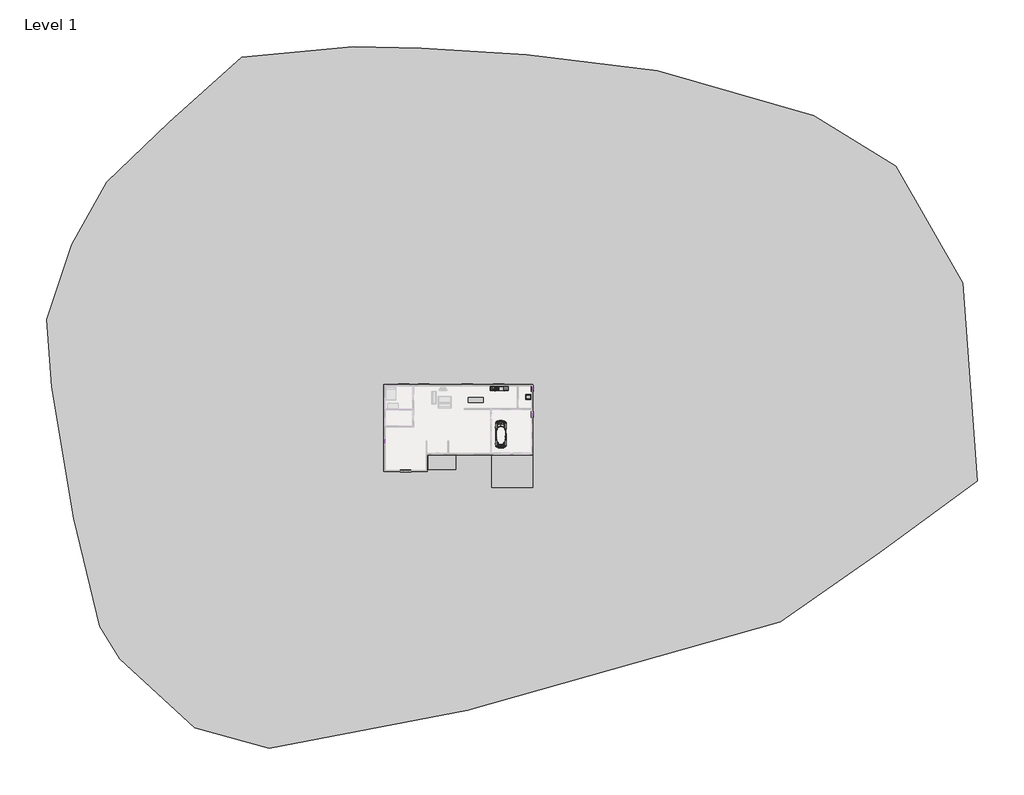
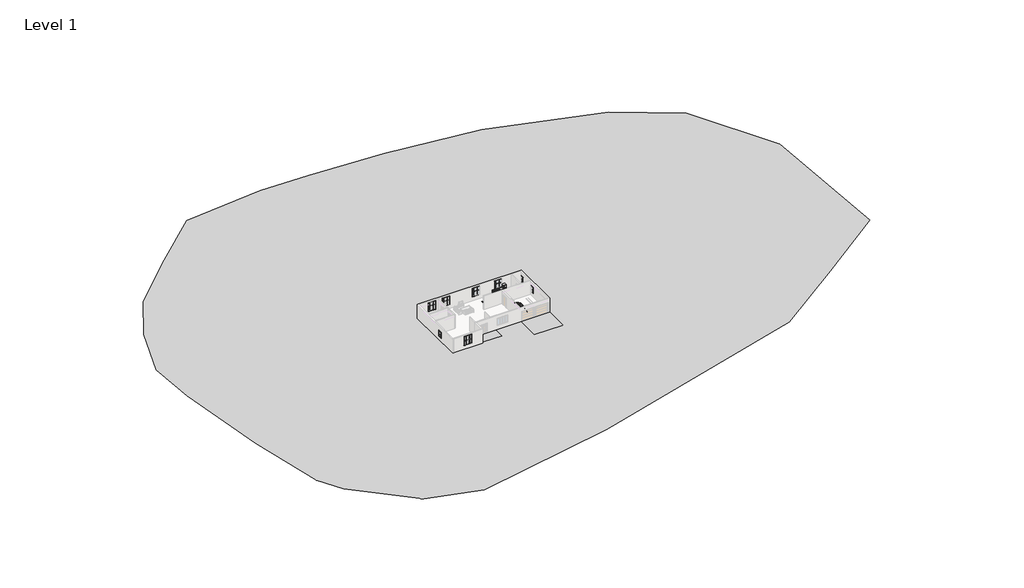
# One storey, part 2 of 2: 41 proxies, 2 furniture elements, 1 flow terminal.
"""IFC4 building model written with IfcOpenShell, lengths in millimetres."""

from ifc_helpers import new_model, si_unit, origin, place, context, project, spatial, triangles, transform, mapped, element, save
from components import proxy_a6faaae8, proxy_45b28599, kitchenette_medium_kitchenette_medium_7c2ce49e, muntin_pattern_2x1_muntin_pattern_2x2_2_bff912c5, muntin_pattern_2x1_muntin_pattern_2x2_2_c2194282, muntin_pattern_2x1_muntin_pattern_2x2_2_b8ba09c9, rpc_beetle_rpc_beetle_e6dad58a, proxy_c523a7b7, trim_window_exterior_flat1_with_sill_2_e04b3088, trim_window_exterior_flat1_with_sill_2_6cd3ad68, trim_window_interior_flat1_picture_frame_2_2a7685fe, trim_window_interior_flat1_picture_frame_2_840a62db, proxy_e25b1b2c, flow_terminal_871c2e40, furniture_b11095bc, furniture_92191dda

model = new_model("IFC4")

# Units and contexts
model_context = context("Model", 3, world=origin())
ifc_project = project(units=[si_unit("LENGTHUNIT", "METRE", prefix="MILLI")], contexts=[model_context])

# Site, building, storey
site = spatial("IfcSite", under=ifc_project)
building = spatial("IfcBuilding", under=site)
storey = spatial("IfcBuildingStorey", under=building, Name="Level 1", Elevation=0.0)

# Proxies
placement = place(None, origin())
element("IfcBuildingElementProxy", 1, Name="Building Element Proxy", at=placement, inside=storey, context=model_context, shape_type="Tessellation", body=[
    triangles([(59597.3715454, -17665.7182159, 0.0), (73730.2251709, -7380.5000839, 0.0), (71580.1285034, 21287.4727295, 0.0), (61904.6865234, 38129.9074768, 0.0), (50079.147876, 45416.3487671, 0.0), (27503.1189148, 51986.0965942, 0.0), (8510.5875, 54255.6417847, 0.0), (-6659.5481598, 55211.2439209, 0.0), (-16454.4398254, 55450.1409668, 0.0), (-32580.1741333, 53897.2915649, 0.0), (-43107.34552, 44439.9758057, 0.0), (-52040.1212036, 35818.8113342, 0.0), (-57129.722168, 26782.167572, 0.0), (-60765.1560791, 15979.743219, 0.0), (-60038.0702271, 6216.0136047, 0.0), (-56818.1132812, -12792.0994171, 0.0), (-53078.8159424, -28372.5193359, 0.0), (-50170.4678833, -33046.6456604, 0.0), (-39368.0435303, -43018.1137573, 0.0), (-28565.6191772, -46030.329895, 0.0), (-1.5153775, -40525.2473145, 0.0), (45224.509314, -27718.8685364, 0.0), (-1668.2012272, -3591.5729256, 0.0), (-1668.2012272, -5725.1726349, 0.0), (-3279.2780342, -5725.1726349, 0.0), (-5630.6010818, -5725.1726349, 0.0), (-5630.6010818, -3591.5729256, 0.0), (-3732.2620125, -3591.5729256, 0.0), (9502.8513519, -3591.5729256, 0.0), (9502.8513519, -8315.9726349, 0.0), (9351.0763138, -8315.9726349, 0.0), (3559.2516426, -8315.9726349, 0.0), (3559.2516426, -3591.5729256, 0.0), (8411.465062, -3591.5729256, 0.0), (-16351.0414856, -21828.3513428, 0.0), (-20827.8356689, -18922.3612793, 0.0), (-22791.3414001, -13188.9240326, 0.0), (-23184.0430115, -7612.5667328, 0.0), (-21220.5349548, -936.6464619, 0.0), (-19649.730835, 4325.5496361, 0.0), (-15408.558316, 11865.4129578, 0.0), (-7397.4537003, 13671.8387421, 0.0), (-4255.8440071, 15713.8850281, 0.0), (-171.7513443, 15870.964975, 0.0), (4540.66325, 15870.964975, 0.0), (13180.0896881, 15321.1834167, 0.0), (19698.9301575, 13514.7576324, 0.0), (24725.5047363, 11080.0108978, 0.0), (27710.0341919, 8174.0214157, 0.0), (29909.1604248, 3461.6070213, 0.0), (31322.8857605, -779.5659336, 0.0), (32108.2866577, -5491.9804733, 0.0), (32265.3677673, -11853.7404144, 0.0), (29909.1604248, -17822.7981628, 0.0), (26689.0104675, -21357.1080139, 0.0), (22997.6195068, -23399.1554626, 0.0), (17264.1822601, -25519.7423035, 0.0), (12944.4691864, -26383.6849182, 0.0), (1411.7785069, -27820.508844, 0.0), (-5512.4879425, -29996.5364868, 0.0), (-11952.7878571, -30389.2357727, 0.0), (-18314.5472168, -30153.615271, 0.0), (-23105.5012939, -29211.1332642, 0.0), (-27425.2143677, -27169.0858154, 0.0), (-29545.8012085, -24577.2579712, 0.0), (-30409.7438232, -19079.4423889, 0.0), (-30488.2855408, -12246.440863, 0.0), (-29624.342926, -5099.2794434, 0.0), (-28838.9397034, 319.9974372, 0.0), (-27582.2954773, 5425.1130432, 0.0), (-24519.2266296, 9509.2056152, 0.0), (-18707.2488281, 14928.4818054, 0.0), (-12895.2698639, 17755.9313141, 0.0), (5954.3877136, 19955.0587097, 0.0), (23233.2400085, 14457.240802, 0.0), (-20042.4324463, 23253.7480591, 0.0), (-6690.5916138, 23960.6095642, 0.0), (2577.1572281, 27966.1627441, 0.0), (16243.1585358, 25688.4947937, 0.0), (24804.0464539, 22782.5070557, 0.0), (31951.2078735, 17755.9313141, 0.0), (36506.541449, 13279.1371307, 0.0), (38941.2881836, 7859.8603592, 0.0), (43339.5406494, -2900.1523384, 0.0), (-28603.3192017, 19876.5169922, 0.0), (-32373.2495544, 10294.6076752, 0.0), (-34101.1347839, 4247.0093719, 0.0), (-37321.2847412, -5334.8999451, 0.0), (-37556.9052429, -9968.7740753, 0.0), (43496.6240845, -11618.11875, 0.0), (33600.5513855, -21906.8907349, 0.0), (22447.8391113, -25676.8234131, 0.0), (9017.4571426, -29368.2143738, 0.0), (-4570.0047729, -30703.3979919, 0.0), (-42269.3222534, 3540.1472855, 0.0), (-43997.2074829, 12807.8961273, 0.0), (-40934.1386353, 21604.4022217, 0.0), (-30331.2044312, 32442.9569275, 0.0), (-10696.143631, 35663.1068848, 0.0), (9174.5370895, 35506.0257751, 0.0), (31008.7235413, 34249.3815491, 0.0), (41925.8176392, 30008.2078674, 0.0), (47345.0961548, 23882.0701721, 0.0), (51743.3486206, 15870.964975, 0.0), (55356.1978638, 7231.5388275, 0.0), (58576.3501465, -4942.1989151, 0.0), (-43107.34552, -39382.6844971, 0.0), (-54636.8557251, -21309.3969727, 0.0), (-57233.5948975, -5728.9753098, 0.0), (-37810.0014221, 47140.5830566, 0.0)], [[17, 66, 108], [17, 108, 16], [65, 17, 18], [65, 107, 64], [19, 107, 18], [64, 107, 19], [107, 65, 18], [66, 17, 65], [109, 16, 89], [16, 109, 15], [16, 108, 89], [109, 89, 88], [67, 66, 37], [68, 89, 67], [95, 109, 88], [88, 89, 68], [67, 38, 68], [67, 89, 66], [108, 66, 89], [68, 69, 88], [36, 66, 65], [20, 63, 64], [63, 20, 62], [36, 64, 63], [20, 64, 19], [61, 94, 60], [61, 62, 20], [63, 62, 35], [61, 35, 62], [35, 60, 59], [94, 61, 21], [61, 20, 21], [35, 61, 60], [39, 38, 26], [38, 67, 37], [26, 38, 37], [38, 39, 68], [35, 26, 37], [35, 36, 63], [27, 39, 26], [27, 28, 42], [26, 35, 59], [37, 36, 35], [66, 36, 37], [39, 27, 40], [65, 64, 36], [39, 69, 68], [14, 15, 96], [96, 15, 95], [14, 96, 13], [88, 87, 95], [95, 15, 109], [87, 86, 95], [70, 86, 87], [97, 86, 85], [95, 86, 96], [69, 87, 88], [96, 86, 97], [12, 98, 11], [97, 12, 13], [98, 110, 11], [85, 98, 97], [110, 10, 11], [10, 110, 98], [98, 9, 10], [98, 12, 97], [13, 96, 97], [70, 87, 69], [70, 40, 71], [70, 69, 39], [71, 40, 41], [71, 85, 86], [72, 41, 73], [41, 40, 27], [73, 42, 43], [41, 42, 73], [27, 42, 41], [41, 72, 71], [42, 44, 43], [71, 72, 85], [99, 98, 76], [85, 72, 76], [98, 99, 9], [76, 98, 85], [77, 99, 76], [77, 73, 43], [99, 8, 9], [100, 8, 99], [78, 99, 77], [77, 76, 73], [72, 73, 76], [77, 43, 44], [71, 86, 70], [39, 40, 70], [59, 60, 94], [26, 59, 25], [59, 21, 93], [31, 32, 58], [25, 59, 32], [31, 58, 30], [93, 58, 59], [32, 59, 58], [21, 92, 93], [24, 25, 32], [24, 33, 23], [33, 34, 45], [24, 32, 33], [29, 46, 34], [23, 44, 42], [44, 23, 33], [30, 52, 29], [94, 21, 59], [93, 57, 58], [93, 92, 57], [57, 92, 56], [57, 56, 30], [91, 55, 92], [91, 92, 22], [55, 91, 54], [55, 56, 92], [22, 90, 91], [30, 56, 55], [21, 22, 92], [30, 55, 54], [52, 30, 53], [54, 91, 53], [52, 53, 90], [30, 54, 53], [90, 1, 106], [53, 91, 90], [106, 2, 105], [2, 106, 1], [52, 90, 84], [22, 1, 90], [29, 52, 51], [57, 30, 58], [106, 84, 90], [46, 29, 47], [34, 46, 45], [45, 46, 74], [44, 45, 74], [80, 75, 81], [49, 48, 29], [46, 47, 79], [75, 47, 48], [81, 75, 48], [29, 48, 47], [44, 33, 45], [80, 47, 75], [8, 100, 7], [74, 78, 44], [79, 78, 74], [99, 78, 100], [101, 100, 79], [79, 74, 46], [100, 6, 7], [101, 6, 100], [101, 79, 80], [79, 100, 78], [47, 80, 79], [81, 48, 49], [78, 77, 44], [49, 83, 82], [29, 50, 49], [83, 50, 51], [82, 81, 49], [84, 105, 83], [105, 84, 106], [83, 104, 82], [104, 83, 105], [105, 3, 104], [84, 83, 51], [51, 52, 84], [82, 104, 103], [101, 81, 102], [101, 80, 81], [102, 81, 103], [101, 102, 5], [103, 3, 4], [103, 81, 82], [5, 102, 4], [4, 102, 103], [104, 3, 103], [101, 5, 6], [105, 2, 3], [50, 83, 49], [29, 51, 50], [23, 42, 28]], closed=False),
])
element("IfcBuildingElementProxy", 2, Name="Building Element Proxy", at=placement, inside=storey, context=model_context, shape_type="Tessellation", body=[
    triangles([(-1668.2012272, -3591.5729256, 0.0), (-3732.2620125, -3591.5729256, 0.0), (-5630.6010818, -3591.5729256, 0.0), (-5630.6010818, -5725.1726349, 0.0), (-3279.2780342, -5725.1726349, 0.0), (-1668.2012272, -5725.1726349, 0.0)], [[3, 4, 2], [2, 4, 5], [5, 6, 1], [5, 1, 2]], closed=False),
])
element("IfcBuildingElementProxy", 3, Name="Building Element Proxy", at=placement, inside=storey, context=model_context, shape_type="Tessellation", body=[
    triangles([(9502.8513519, -3591.5729256, 0.0), (8411.465062, -3591.5729256, 0.0), (3559.2516426, -3591.5729256, 0.0), (3559.2516426, -8315.9726349, 0.0), (9351.0763138, -8315.9726349, 0.0), (9502.8513519, -8315.9726349, 0.0)], [[3, 4, 2], [2, 4, 5], [5, 6, 1], [5, 1, 2]], closed=False),
])
proxy_shape = proxy_a6faaae8(model_context)
element("IfcBuildingElementProxy", 4, Name="Cook Top-4 Unit2 : 22\" x 20\"", ObjectType="Cook Top-4 Unit2 : 22\" x 20\"", at=placement, inside=storey, context=model_context, shape_type="MappedRepresentation", body=[
    mapped(proxy_shape, transform((3677.5209758, 6019.5454182, 1.7), x_axis=(-1.0000000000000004, 0.0, 0.0), y_axis=(0.0, -1.0000000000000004, 0.0), z_axis=(0.0, 0.0, 1.0))),
])
proxy_2_shape = proxy_45b28599(model_context)
element("IfcBuildingElementProxy", 5, Name="Dishwasher1 : 24\" x 24\" x 34\"", ObjectType="Dishwasher1 : 24\" x 24\" x 34\"", at=placement, inside=storey, context=model_context, shape_type="MappedRepresentation", body=[
    mapped(proxy_2_shape, transform((4628.7035073, 5759.4458534, 0.0), x_axis=(1.0, 0.0, 0.0), y_axis=(0.0, 1.0, 0.0), z_axis=(0.0, 0.0, 1.0))),
])
kitchenette_medium_kitchenette_medium_shape = kitchenette_medium_kitchenette_medium_7c2ce49e(model_context)
element("IfcBuildingElementProxy", 6, Name="Kitchenette - Medium : Kitchenette - Medium", ObjectType="Kitchenette - Medium : Kitchenette - Medium", at=placement, inside=storey, context=model_context, shape_type="MappedRepresentation", body=[
    mapped(kitchenette_medium_kitchenette_medium_shape, transform((4001.6832709, 6330.6954182, 0.0), x_axis=(1.0, 0.0, 0.0), y_axis=(0.0, 1.0, 0.0), z_axis=(0.0, 0.0, 1.0))),
])
muntin_pattern_2x1_muntin_pattern_2x2_2_shape = muntin_pattern_2x1_muntin_pattern_2x2_2_bff912c5(model_context)
element("IfcBuildingElementProxy", 7, Name="Muntin Pattern_2x1 : Muntin Pattern_2x2 2", ObjectType="Muntin Pattern_2x1 : Muntin Pattern_2x2 2", at=placement, inside=storey, context=model_context, shape_type="MappedRepresentation", body=[
    mapped(muntin_pattern_2x1_muntin_pattern_2x2_2_shape, transform((-8525.886872, -6003.4562489, 984.25), x_axis=(-1.0, 0.0, 0.0), y_axis=(0.0, -1.0, 0.0), z_axis=(0.0, 0.0, 1.0))),
])
element("IfcBuildingElementProxy", 8, Name="Muntin Pattern_2x1 : Muntin Pattern_2x2 2", ObjectType="Muntin Pattern_2x1 : Muntin Pattern_2x2 2", at=placement, inside=storey, context=model_context, shape_type="MappedRepresentation", body=[
    mapped(muntin_pattern_2x1_muntin_pattern_2x2_2_shape, transform((4215.388128, 6575.8937511, 984.25), x_axis=(1.0, 0.0, 0.0), y_axis=(0.0, 1.0, 0.0), z_axis=(0.0, 0.0, 1.0))),
])
element("IfcBuildingElementProxy", 9, Name="Muntin Pattern_2x1 : Muntin Pattern_2x2 2", ObjectType="Muntin Pattern_2x1 : Muntin Pattern_2x2 2", at=placement, inside=storey, context=model_context, shape_type="MappedRepresentation", body=[
    mapped(muntin_pattern_2x1_muntin_pattern_2x2_2_shape, transform((-356.611872, 6575.8937511, 984.25), x_axis=(1.0, 0.0, 0.0), y_axis=(0.0, 1.0, 0.0), z_axis=(0.0, 0.0, 1.0))),
])
element("IfcBuildingElementProxy", 10, Name="Muntin Pattern_2x1 : Muntin Pattern_2x2 2", ObjectType="Muntin Pattern_2x1 : Muntin Pattern_2x2 2", at=placement, inside=storey, context=model_context, shape_type="MappedRepresentation", body=[
    mapped(muntin_pattern_2x1_muntin_pattern_2x2_2_shape, transform((-6644.699372, 6575.8937511, 984.25), x_axis=(1.0, 0.0, 0.0), y_axis=(0.0, 1.0, 0.0), z_axis=(0.0, 0.0, 1.0))),
])
element("IfcBuildingElementProxy", 11, Name="Muntin Pattern_2x1 : Muntin Pattern_2x2 2", ObjectType="Muntin Pattern_2x1 : Muntin Pattern_2x2 2", at=placement, inside=storey, context=model_context, shape_type="MappedRepresentation", body=[
    mapped(muntin_pattern_2x1_muntin_pattern_2x2_2_shape, transform((-9540.299372, 6575.8937511, 984.25), x_axis=(1.0, 0.0, 0.0), y_axis=(0.0, 1.0, 0.0), z_axis=(0.0, 0.0, 1.0))),
])
muntin_pattern_2x1_muntin_pattern_2x2_2_2_shape = muntin_pattern_2x1_muntin_pattern_2x2_2_c2194282(model_context)
element("IfcBuildingElementProxy", 12, Name="Muntin Pattern_2x1 : Muntin Pattern_2x2 2", ObjectType="Muntin Pattern_2x1 : Muntin Pattern_2x2 2", at=placement, inside=storey, context=model_context, shape_type="MappedRepresentation", body=[
    mapped(muntin_pattern_2x1_muntin_pattern_2x2_2_2_shape, transform((-9246.611872, -6003.4562489, 984.25), x_axis=(1.0, 0.0, 0.0), y_axis=(0.0, 1.0, 0.0), z_axis=(0.0, 0.0, 1.0))),
])
element("IfcBuildingElementProxy", 13, Name="Muntin Pattern_2x1 : Muntin Pattern_2x2 2", ObjectType="Muntin Pattern_2x1 : Muntin Pattern_2x2 2", at=placement, inside=storey, context=model_context, shape_type="MappedRepresentation", body=[
    mapped(muntin_pattern_2x1_muntin_pattern_2x2_2_2_shape, transform((4936.113128, 6575.8937511, 984.25), x_axis=(-1.0, 0.0, 0.0), y_axis=(0.0, -1.0, 0.0), z_axis=(0.0, 0.0, 1.0))),
])
element("IfcBuildingElementProxy", 14, Name="Muntin Pattern_2x1 : Muntin Pattern_2x2 2", ObjectType="Muntin Pattern_2x1 : Muntin Pattern_2x2 2", at=placement, inside=storey, context=model_context, shape_type="MappedRepresentation", body=[
    mapped(muntin_pattern_2x1_muntin_pattern_2x2_2_2_shape, transform((364.113128, 6575.8937511, 984.25), x_axis=(-1.0, 0.0, 0.0), y_axis=(0.0, -1.0, 0.0), z_axis=(0.0, 0.0, 1.0))),
])
element("IfcBuildingElementProxy", 15, Name="Muntin Pattern_2x1 : Muntin Pattern_2x2 2", ObjectType="Muntin Pattern_2x1 : Muntin Pattern_2x2 2", at=placement, inside=storey, context=model_context, shape_type="MappedRepresentation", body=[
    mapped(muntin_pattern_2x1_muntin_pattern_2x2_2_2_shape, transform((-5923.974372, 6575.8937511, 984.25), x_axis=(-1.0, 0.0, 0.0), y_axis=(0.0, -1.0, 0.0), z_axis=(0.0, 0.0, 1.0))),
])
element("IfcBuildingElementProxy", 16, Name="Muntin Pattern_2x1 : Muntin Pattern_2x2 2", ObjectType="Muntin Pattern_2x1 : Muntin Pattern_2x2 2", at=placement, inside=storey, context=model_context, shape_type="MappedRepresentation", body=[
    mapped(muntin_pattern_2x1_muntin_pattern_2x2_2_2_shape, transform((-8819.574372, 6575.8937511, 984.25), x_axis=(-1.0, 0.0, 0.0), y_axis=(0.0, -1.0, 0.0), z_axis=(0.0, 0.0, 1.0))),
])
muntin_pattern_2x1_muntin_pattern_2x2_2_3_shape = muntin_pattern_2x1_muntin_pattern_2x2_2_b8ba09c9(model_context)
element("IfcBuildingElementProxy", 17, Name="Muntin Pattern_2x1 : Muntin Pattern_2x2 2", ObjectType="Muntin Pattern_2x1 : Muntin Pattern_2x2 2", at=placement, inside=storey, context=model_context, shape_type="MappedRepresentation", body=[
    mapped(muntin_pattern_2x1_muntin_pattern_2x2_2_3_shape, transform((9468.425628, 2267.4187511, 1520.825), x_axis=(0.0, -1.0, 0.0), y_axis=(1.0, 0.0, 0.0), z_axis=(0.0, 0.0, 1.0))),
])
element("IfcBuildingElementProxy", 18, Name="Muntin Pattern_2x1 : Muntin Pattern_2x2 2", ObjectType="Muntin Pattern_2x1 : Muntin Pattern_2x2 2", at=placement, inside=storey, context=model_context, shape_type="MappedRepresentation", body=[
    mapped(muntin_pattern_2x1_muntin_pattern_2x2_2_3_shape, transform((9423.975628, 2267.4187511, 990.6), x_axis=(0.0, -1.0, 0.0), y_axis=(1.0, 0.0, 0.0), z_axis=(0.0, 0.0, 1.0))),
])
element("IfcBuildingElementProxy", 19, Name="Muntin Pattern_2x1 : Muntin Pattern_2x2 2", ObjectType="Muntin Pattern_2x1 : Muntin Pattern_2x2 2", at=placement, inside=storey, context=model_context, shape_type="MappedRepresentation", body=[
    mapped(muntin_pattern_2x1_muntin_pattern_2x2_2_3_shape, transform((-11867.574372, -1604.4937489, 1520.825), x_axis=(0.0, -1.0, 0.0), y_axis=(1.0, 0.0, 0.0), z_axis=(0.0, 0.0, 1.0))),
])
element("IfcBuildingElementProxy", 20, Name="Muntin Pattern_2x1 : Muntin Pattern_2x2 2", ObjectType="Muntin Pattern_2x1 : Muntin Pattern_2x2 2", at=placement, inside=storey, context=model_context, shape_type="MappedRepresentation", body=[
    mapped(muntin_pattern_2x1_muntin_pattern_2x2_2_3_shape, transform((-11912.024372, -1604.4937489, 990.6), x_axis=(0.0, -1.0, 0.0), y_axis=(1.0, 0.0, 0.0), z_axis=(0.0, 0.0, 1.0))),
])
element("IfcBuildingElementProxy", 21, Name="Muntin Pattern_2x1 : Muntin Pattern_2x2 2", ObjectType="Muntin Pattern_2x1 : Muntin Pattern_2x2 2", at=placement, inside=storey, context=model_context, shape_type="MappedRepresentation", body=[
    mapped(muntin_pattern_2x1_muntin_pattern_2x2_2_3_shape, transform((9468.425628, 6026.6187511, 1520.825), x_axis=(0.0, -1.0, 0.0), y_axis=(1.0, 0.0, 0.0), z_axis=(0.0, 0.0, 1.0))),
])
element("IfcBuildingElementProxy", 22, Name="Muntin Pattern_2x1 : Muntin Pattern_2x2 2", ObjectType="Muntin Pattern_2x1 : Muntin Pattern_2x2 2", at=placement, inside=storey, context=model_context, shape_type="MappedRepresentation", body=[
    mapped(muntin_pattern_2x1_muntin_pattern_2x2_2_3_shape, transform((9423.975628, 6026.6187511, 990.6), x_axis=(0.0, -1.0, 0.0), y_axis=(1.0, 0.0, 0.0), z_axis=(0.0, 0.0, 1.0))),
])
rpc_beetle_rpc_beetle_shape = rpc_beetle_rpc_beetle_e6dad58a(model_context)
element("IfcBuildingElementProxy", 23, Name="RPC Beetle : RPC Beetle", ObjectType="RPC Beetle : RPC Beetle", at=placement, inside=storey, context=model_context, shape_type="MappedRepresentation", body=[
    mapped(rpc_beetle_rpc_beetle_shape, transform((4880.550628, -1847.3812489, 0.0), x_axis=(1.0, 0.0, 0.0), y_axis=(0.0, 1.0, 0.0), z_axis=(0.0, 0.0, 1.0))),
])
proxy_3_shape = proxy_c523a7b7(model_context)
element("IfcBuildingElementProxy", 24, Name="Refrigerator : 24\" x 25\" LH", ObjectType="Refrigerator : 24\" x 25\" LH", at=placement, inside=storey, context=model_context, shape_type="MappedRepresentation", body=[
    mapped(proxy_3_shape, transform((5614.2709758, 6031.0464467, 0.0), x_axis=(1.0, 0.0, 0.0), y_axis=(0.0, 1.0, 0.0), z_axis=(0.0, 0.0, 1.0))),
])
trim_window_exterior_flat1_with_sill_2_shape = trim_window_exterior_flat1_with_sill_2_e04b3088(model_context)
element("IfcBuildingElementProxy", 25, Name="Trim-Window-Exterior-Flat1 : with Sill 2", ObjectType="Trim-Window-Exterior-Flat1 : with Sill 2", at=placement, inside=storey, context=model_context, shape_type="MappedRepresentation", body=[
    mapped(trim_window_exterior_flat1_with_sill_2_shape, transform((-8886.249372, -6012.9812489, 2743.2), x_axis=(1.0, 0.0, 0.0), y_axis=(0.0, 0.0, 1.0), z_axis=(0.0, -1.0, 0.0))),
])
element("IfcBuildingElementProxy", 26, Name="Trim-Window-Exterior-Flat1 : with Sill 2", ObjectType="Trim-Window-Exterior-Flat1 : with Sill 2", at=placement, inside=storey, context=model_context, shape_type="MappedRepresentation", body=[
    mapped(trim_window_exterior_flat1_with_sill_2_shape, transform((4575.750628, 6585.4187511, 2743.2), x_axis=(-1.0, 0.0, 0.0), y_axis=(0.0, 0.0, 1.0), z_axis=(0.0, 1.0, 0.0))),
])
element("IfcBuildingElementProxy", 27, Name="Trim-Window-Exterior-Flat1 : with Sill 2", ObjectType="Trim-Window-Exterior-Flat1 : with Sill 2", at=placement, inside=storey, context=model_context, shape_type="MappedRepresentation", body=[
    mapped(trim_window_exterior_flat1_with_sill_2_shape, transform((3.750628, 6585.4187511, 2743.2), x_axis=(-1.0, 0.0, 0.0), y_axis=(0.0, 0.0, 1.0), z_axis=(0.0, 1.0, 0.0))),
])
element("IfcBuildingElementProxy", 28, Name="Trim-Window-Exterior-Flat1 : with Sill 2", ObjectType="Trim-Window-Exterior-Flat1 : with Sill 2", at=placement, inside=storey, context=model_context, shape_type="MappedRepresentation", body=[
    mapped(trim_window_exterior_flat1_with_sill_2_shape, transform((-6284.336872, 6585.4187511, 2743.2), x_axis=(-1.0, 0.0, 0.0), y_axis=(0.0, 0.0, 1.0), z_axis=(0.0, 1.0, 0.0))),
])
element("IfcBuildingElementProxy", 29, Name="Trim-Window-Exterior-Flat1 : with Sill 2", ObjectType="Trim-Window-Exterior-Flat1 : with Sill 2", at=placement, inside=storey, context=model_context, shape_type="MappedRepresentation", body=[
    mapped(trim_window_exterior_flat1_with_sill_2_shape, transform((-9179.936872, 6585.4187511, 2743.2), x_axis=(-1.0, 0.0, 0.0), y_axis=(0.0, 0.0, 1.0), z_axis=(0.0, 1.0, 0.0))),
])
trim_window_exterior_flat1_with_sill_2_2_shape = trim_window_exterior_flat1_with_sill_2_6cd3ad68(model_context)
element("IfcBuildingElementProxy", 30, Name="Trim-Window-Exterior-Flat1 : with Sill 2", ObjectType="Trim-Window-Exterior-Flat1 : with Sill 2", at=placement, inside=storey, context=model_context, shape_type="MappedRepresentation", body=[
    mapped(trim_window_exterior_flat1_with_sill_2_2_shape, transform((9503.350628, 2267.4187511, 2082.8), x_axis=(0.0, 1.0, 0.0), y_axis=(0.0, 0.0, 1.0), z_axis=(1.0, 0.0, 0.0))),
])
element("IfcBuildingElementProxy", 31, Name="Trim-Window-Exterior-Flat1 : with Sill 2", ObjectType="Trim-Window-Exterior-Flat1 : with Sill 2", at=placement, inside=storey, context=model_context, shape_type="MappedRepresentation", body=[
    mapped(trim_window_exterior_flat1_with_sill_2_2_shape, transform((-11832.649372, -1604.4937489, 2082.8), x_axis=(0.0, 1.0, 0.0), y_axis=(0.0, 0.0, 1.0), z_axis=(1.0, 0.0, 0.0))),
])
element("IfcBuildingElementProxy", 32, Name="Trim-Window-Exterior-Flat1 : with Sill 2", ObjectType="Trim-Window-Exterior-Flat1 : with Sill 2", at=placement, inside=storey, context=model_context, shape_type="MappedRepresentation", body=[
    mapped(trim_window_exterior_flat1_with_sill_2_2_shape, transform((9503.350628, 6026.6187511, 2082.8), x_axis=(0.0, 1.0, 0.0), y_axis=(0.0, 0.0, 1.0), z_axis=(1.0, 0.0, 0.0))),
])
trim_window_interior_flat1_picture_frame_2_shape = trim_window_interior_flat1_picture_frame_2_2a7685fe(model_context)
element("IfcBuildingElementProxy", 33, Name="Trim-Window-Interior-Flat1 : Picture Frame 2", ObjectType="Trim-Window-Interior-Flat1 : Picture Frame 2", at=placement, inside=storey, context=model_context, shape_type="MappedRepresentation", body=[
    mapped(trim_window_interior_flat1_picture_frame_2_shape, transform((-8886.249372, -5809.7812489, 2743.2), x_axis=(-1.0, 0.0, 0.0), y_axis=(0.0, 0.0, 1.0), z_axis=(0.0, 1.0, 0.0))),
])
element("IfcBuildingElementProxy", 34, Name="Trim-Window-Interior-Flat1 : Picture Frame 2", ObjectType="Trim-Window-Interior-Flat1 : Picture Frame 2", at=placement, inside=storey, context=model_context, shape_type="MappedRepresentation", body=[
    mapped(trim_window_interior_flat1_picture_frame_2_shape, transform((4575.750628, 6382.2187511, 2743.2), x_axis=(1.0, 0.0, 0.0), y_axis=(0.0, 0.0, 1.0), z_axis=(0.0, -1.0, 0.0))),
])
element("IfcBuildingElementProxy", 35, Name="Trim-Window-Interior-Flat1 : Picture Frame 2", ObjectType="Trim-Window-Interior-Flat1 : Picture Frame 2", at=placement, inside=storey, context=model_context, shape_type="MappedRepresentation", body=[
    mapped(trim_window_interior_flat1_picture_frame_2_shape, transform((3.750628, 6382.2187511, 2743.2), x_axis=(1.0, 0.0, 0.0), y_axis=(0.0, 0.0, 1.0), z_axis=(0.0, -1.0, 0.0))),
])
element("IfcBuildingElementProxy", 36, Name="Trim-Window-Interior-Flat1 : Picture Frame 2", ObjectType="Trim-Window-Interior-Flat1 : Picture Frame 2", at=placement, inside=storey, context=model_context, shape_type="MappedRepresentation", body=[
    mapped(trim_window_interior_flat1_picture_frame_2_shape, transform((-6284.336872, 6382.2187511, 2743.2), x_axis=(1.0, 0.0, 0.0), y_axis=(0.0, 0.0, 1.0), z_axis=(0.0, -1.0, 0.0))),
])
element("IfcBuildingElementProxy", 37, Name="Trim-Window-Interior-Flat1 : Picture Frame 2", ObjectType="Trim-Window-Interior-Flat1 : Picture Frame 2", at=placement, inside=storey, context=model_context, shape_type="MappedRepresentation", body=[
    mapped(trim_window_interior_flat1_picture_frame_2_shape, transform((-9179.936872, 6382.2187511, 2743.2), x_axis=(1.0, 0.0, 0.0), y_axis=(0.0, 0.0, 1.0), z_axis=(0.0, -1.0, 0.0))),
])
trim_window_interior_flat1_picture_frame_2_2_shape = trim_window_interior_flat1_picture_frame_2_840a62db(model_context)
element("IfcBuildingElementProxy", 38, Name="Trim-Window-Interior-Flat1 : Picture Frame 2", ObjectType="Trim-Window-Interior-Flat1 : Picture Frame 2", at=placement, inside=storey, context=model_context, shape_type="MappedRepresentation", body=[
    mapped(trim_window_interior_flat1_picture_frame_2_2_shape, transform((9300.150628, 2267.4187511, 2082.8), x_axis=(0.0, -1.0, 0.0), y_axis=(0.0, 0.0, 1.0), z_axis=(-1.0, 0.0, 0.0))),
])
element("IfcBuildingElementProxy", 39, Name="Trim-Window-Interior-Flat1 : Picture Frame 2", ObjectType="Trim-Window-Interior-Flat1 : Picture Frame 2", at=placement, inside=storey, context=model_context, shape_type="MappedRepresentation", body=[
    mapped(trim_window_interior_flat1_picture_frame_2_2_shape, transform((-12035.849372, -1604.4937489, 2082.8), x_axis=(0.0, -1.0, 0.0), y_axis=(0.0, 0.0, 1.0), z_axis=(-1.0, 0.0, 0.0))),
])
element("IfcBuildingElementProxy", 40, Name="Trim-Window-Interior-Flat1 : Picture Frame 2", ObjectType="Trim-Window-Interior-Flat1 : Picture Frame 2", at=placement, inside=storey, context=model_context, shape_type="MappedRepresentation", body=[
    mapped(trim_window_interior_flat1_picture_frame_2_2_shape, transform((9300.150628, 6026.6187511, 2082.8), x_axis=(0.0, -1.0, 0.0), y_axis=(0.0, 0.0, 1.0), z_axis=(-1.0, 0.0, 0.0))),
])
proxy_4_shape = proxy_e25b1b2c(model_context)
element("IfcBuildingElementProxy", 41, Name="Washer-Front_Load : 27\"", ObjectType="Washer-Front_Load : 27\"", at=placement, inside=storey, context=model_context, shape_type="MappedRepresentation", body=[
    mapped(proxy_4_shape, transform((9319.200628, 4794.7187511, 0.0), x_axis=(0.0, -1.0, 0.0), y_axis=(1.0, 0.0, 0.0), z_axis=(0.0, 0.0, 1.0))),
])

# Flow terminal
flow_terminal_shape = flow_terminal_871c2e40(model_context)
element("IfcFlowTerminal", 42, ObjectType="Sink Kitchen-Island : 18\" x 18\"", at=placement, inside=storey, context=model_context, shape_type="MappedRepresentation", body=[
    mapped(flow_terminal_shape, transform((4334.9317352, 6010.8500171, -12.7), x_axis=(1.0, 0.0, 0.0), y_axis=(0.0, 1.0, 0.0), z_axis=(0.0, 0.0, 1.0))),
])

# Furniture
furniture_shape = furniture_b11095bc(model_context)
element("IfcFurniture", 43, ObjectType="Counter Top w Sink Hole : 24\" Depth", at=placement, inside=storey, context=model_context, shape_type="MappedRepresentation", body=[
    mapped(furniture_shape, transform((4535.0832709, 6330.6954182, -12.7), x_axis=(1.0, 0.0, 0.0), y_axis=(0.0, 1.0, 0.0), z_axis=(0.0, 0.0, 1.0))),
])
furniture_2_shape = furniture_92191dda(model_context)
element("IfcFurniture", 44, ObjectType="Table-Dining : 30\" x 84\" x 22\"", at=placement, inside=storey, context=model_context, shape_type="MappedRepresentation", body=[
    mapped(furniture_2_shape, transform((1233.8541673, 4236.7980052, 0.0), x_axis=(1.0, 0.0, 0.0), y_axis=(0.0, 1.0, 0.0), z_axis=(0.0, 0.0, 1.0))),
])

save(model, "model.ifc")
